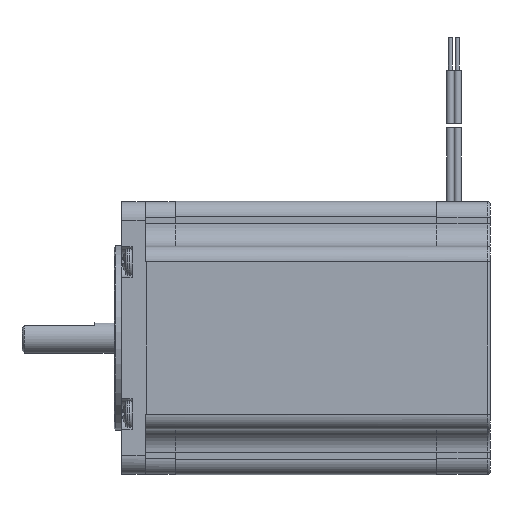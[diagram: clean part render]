
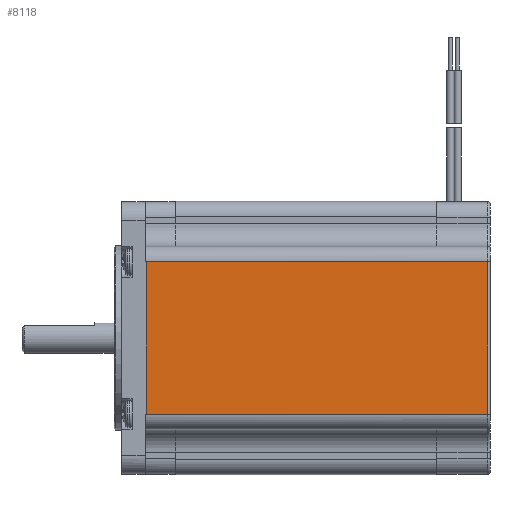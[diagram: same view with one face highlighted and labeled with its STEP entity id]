
A CAD part, left-side view. The second image highlights one B-rep face of the part: STEP entity #8118.
In plain terms, the highlighted planar face has unit normal (-1, 0, 0).
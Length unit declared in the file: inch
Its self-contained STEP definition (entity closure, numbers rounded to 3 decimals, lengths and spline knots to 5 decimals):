
#1754=CARTESIAN_POINT('',(-1.10609,3.53301,-0.61775));
#1755=VERTEX_POINT('',#1754);
#1763=CARTESIAN_POINT('',(-1.10609,3.53301,0.61775));
#1764=VERTEX_POINT('',#1763);
#1765=CARTESIAN_POINT('',(-1.10609,3.53301,0.41499));
#1766=DIRECTION('',(0.,0.,-1.));
#1767=VECTOR('',#1766,1.);
#1768=LINE('',#1765,#1767);
#1769=EDGE_CURVE('',#1764,#1755,#1768,.T.);
#3233=CARTESIAN_POINT('',(-1.10609,0.76028,-0.61775));
#3234=VERTEX_POINT('',#3233);
#3267=CARTESIAN_POINT('',(-1.10609,0.76028,0.61775));
#3268=VERTEX_POINT('',#3267);
#3269=CARTESIAN_POINT('',(-1.10609,0.76028,0.));
#3270=DIRECTION('',(0.,0.,-1.));
#3271=VECTOR('',#3270,1.);
#3272=LINE('',#3269,#3271);
#3273=EDGE_CURVE('',#3268,#3234,#3272,.T.);
#8079=CARTESIAN_POINT('',(-1.10609,1.1731,0.61775));
#8080=DIRECTION('',(0.,-1.,0.));
#8081=VECTOR('',#8080,0.12732);
#8082=LINE('',#8079,#8081);
#8083=EDGE_CURVE('',#1764,#3268,#8082,.T.);
#8102=ORIENTED_EDGE('',*,*,#8083,.F.);
#8103=ORIENTED_EDGE('',*,*,#1769,.T.);
#8104=CARTESIAN_POINT('',(-1.10609,0.78199,-0.61775));
#8105=DIRECTION('',(0.,1.,0.));
#8106=VECTOR('',#8105,1.);
#8107=LINE('',#8104,#8106);
#8108=EDGE_CURVE('',#3234,#1755,#8107,.T.);
#8109=ORIENTED_EDGE('',*,*,#8108,.F.);
#8110=ORIENTED_EDGE('',*,*,#3273,.F.);
#8111=EDGE_LOOP('',(#8102,#8103,#8109,#8110));
#8112=FACE_OUTER_BOUND('',#8111,.T.);
#8113=CARTESIAN_POINT('',(-1.10609,2.43407,0.));
#8114=DIRECTION('',(-1.,0.,0.));
#8115=DIRECTION('',(0.,0.,1.));
#8116=AXIS2_PLACEMENT_3D('',#8113,#8114,#8115);
#8117=PLANE('',#8116);
#8118=ADVANCED_FACE('',(#8112),#8117,.T.);
